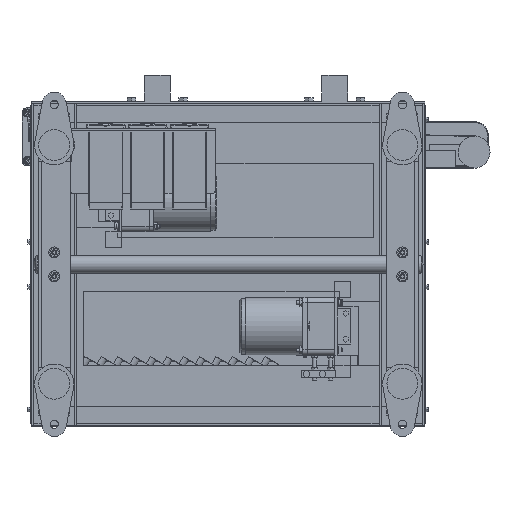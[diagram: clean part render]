
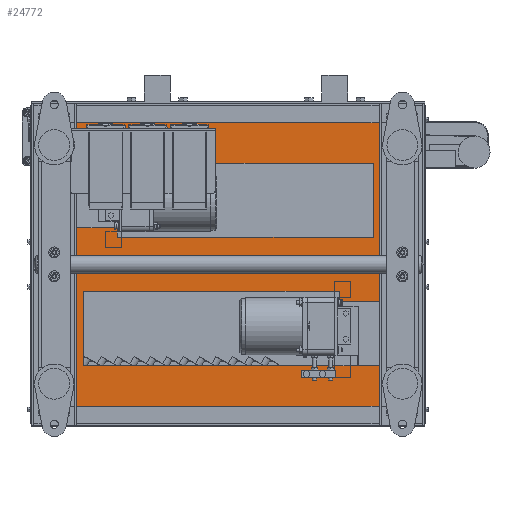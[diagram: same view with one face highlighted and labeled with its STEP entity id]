
A CAD part, front view. The second image highlights one B-rep face of the part: STEP entity #24772.
In plain terms, the highlighted planar face has unit normal (0, -1, 0).
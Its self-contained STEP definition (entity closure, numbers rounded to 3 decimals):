
#23 = EDGE_CURVE ( 'NONE', #34665, #31992, #8664, .T. ) ;
#465 = VERTEX_POINT ( 'NONE', #7724 ) ;
#671 = CARTESIAN_POINT ( 'NONE',  ( 3., -93., -247. ) ) ;
#875 = LINE ( 'NONE', #16957, #46499 ) ;
#922 = EDGE_CURVE ( 'NONE', #47842, #46367, #19566, .T. ) ;
#966 = CARTESIAN_POINT ( 'NONE',  ( 610., -93., -500000. ) ) ;
#1209 = CARTESIAN_POINT ( 'NONE',  ( 477., -93., -42. ) ) ;
#1773 = VERTEX_POINT ( 'NONE', #22852 ) ;
#2421 = CARTESIAN_POINT ( 'NONE',  ( 40., -93., 157. ) ) ;
#3193 = CARTESIAN_POINT ( 'NONE',  ( 610., -93., -247. ) ) ;
#3985 = EDGE_CURVE ( 'NONE', #47346, #16393, #43688, .T. ) ;
#4253 = LINE ( 'NONE', #5260, #57061 ) ;
#4500 = EDGE_CURVE ( 'NONE', #465, #47346, #54246, .T. ) ;
#4679 = CARTESIAN_POINT ( 'NONE',  ( 570., -93., -57. ) ) ;
#5260 = CARTESIAN_POINT ( 'NONE',  ( 530., -93., 42. ) ) ;
#5578 = EDGE_CURVE ( 'NONE', #35541, #32218, #21245, .T. ) ;
#6024 = VECTOR ( 'NONE', #28038, 1000. ) ;
#6991 = VECTOR ( 'NONE', #16217, 1000. ) ;
#7374 = CARTESIAN_POINT ( 'NONE',  ( 80., -93., -157. ) ) ;
#7724 = CARTESIAN_POINT ( 'NONE',  ( 40., -93., 57. ) ) ;
#8326 = CARTESIAN_POINT ( 'NONE',  ( 530., -93., 157. ) ) ;
#8544 = LINE ( 'NONE', #31102, #31307 ) ;
#8664 = LINE ( 'NONE', #4679, #19399 ) ;
#9218 = VERTEX_POINT ( 'NONE', #40480 ) ;
#9263 = ORIENTED_EDGE ( 'NONE', *, *, #45675, .T. ) ;
#9299 = DIRECTION ( 'NONE',  ( -1., 0., 0. ) ) ;
#9811 = DIRECTION ( 'NONE',  ( -1., 0., 0. ) ) ;
#12069 = DIRECTION ( 'NONE',  ( -1., 0., 0. ) ) ;
#12742 = VECTOR ( 'NONE', #9299, 1000. ) ;
#13437 = ORIENTED_EDGE ( 'NONE', *, *, #23, .T. ) ;
#14275 = EDGE_CURVE ( 'NONE', #9218, #1773, #51369, .T. ) ;
#14515 = CARTESIAN_POINT ( 'NONE',  ( 477., -93., -57. ) ) ;
#15064 = VECTOR ( 'NONE', #45428, 1000. ) ;
#15795 = CARTESIAN_POINT ( 'NONE',  ( 530., -93., 157. ) ) ;
#16217 = DIRECTION ( 'NONE',  ( 0., 0., 1. ) ) ;
#16393 = VERTEX_POINT ( 'NONE', #41852 ) ;
#16656 = DIRECTION ( 'NONE',  ( 0., 0., -1. ) ) ;
#16877 = ORIENTED_EDGE ( 'NONE', *, *, #43638, .F. ) ;
#16887 = VECTOR ( 'NONE', #16656, 1000. ) ;
#16957 = CARTESIAN_POINT ( 'NONE',  ( 80., -93., -42. ) ) ;
#17096 = CARTESIAN_POINT ( 'NONE',  ( 133., -93., 57. ) ) ;
#17162 = DIRECTION ( 'NONE',  ( 0., 0., -1. ) ) ;
#17191 = ORIENTED_EDGE ( 'NONE', *, *, #39667, .T. ) ;
#18320 = CARTESIAN_POINT ( 'NONE',  ( 570., -93., -57. ) ) ;
#18420 = FACE_BOUND ( 'NONE', #45718, .T. ) ;
#18583 = PLANE ( 'NONE',  #31071 ) ;
#19093 = FACE_OUTER_BOUND ( 'NONE', #47543, .T. ) ;
#19399 = VECTOR ( 'NONE', #37142, 1000. ) ;
#19469 = ORIENTED_EDGE ( 'NONE', *, *, #3985, .T. ) ;
#19504 = VECTOR ( 'NONE', #20199, 1000. ) ;
#19566 = LINE ( 'NONE', #26401, #53748 ) ;
#20083 = CARTESIAN_POINT ( 'NONE',  ( 133., -93., 42. ) ) ;
#20199 = DIRECTION ( 'NONE',  ( 1., 0., 0. ) ) ;
#20783 = CARTESIAN_POINT ( 'NONE',  ( 570., -93., -57. ) ) ;
#21245 = LINE ( 'NONE', #47804, #6991 ) ;
#21992 = EDGE_CURVE ( 'NONE', #9218, #39885, #28019, .T. ) ;
#22435 = LINE ( 'NONE', #23502, #6024 ) ;
#22852 = CARTESIAN_POINT ( 'NONE',  ( 607., -93., 247. ) ) ;
#23502 = CARTESIAN_POINT ( 'NONE',  ( 3., -93., -500000. ) ) ;
#24772 = ADVANCED_FACE ( 'NONE', ( #18420, #57588, #19093 ), #18583, .F. ) ;
#25437 = ORIENTED_EDGE ( 'NONE', *, *, #38778, .T. ) ;
#25524 = LINE ( 'NONE', #58679, #12742 ) ;
#26401 = CARTESIAN_POINT ( 'NONE',  ( 133., -93., 57. ) ) ;
#26794 = LINE ( 'NONE', #20783, #41770 ) ;
#27525 = CARTESIAN_POINT ( 'NONE',  ( 607., -93., -500000. ) ) ;
#28019 = LINE ( 'NONE', #3193, #56562 ) ;
#28038 = DIRECTION ( 'NONE',  ( 0., 0., 1. ) ) ;
#28135 = DIRECTION ( 'NONE',  ( 1., 0., 0. ) ) ;
#30502 = DIRECTION ( 'NONE',  ( 0., 0., 1. ) ) ;
#31071 = AXIS2_PLACEMENT_3D ( 'NONE', #966, #41648, #9811 ) ;
#31102 = CARTESIAN_POINT ( 'NONE',  ( 610., -93., 247. ) ) ;
#31307 = VECTOR ( 'NONE', #28135, 1000. ) ;
#31725 = DIRECTION ( 'NONE',  ( 0., 0., 1. ) ) ;
#31744 = LINE ( 'NONE', #35083, #16887 ) ;
#31992 = VERTEX_POINT ( 'NONE', #58343 ) ;
#32218 = VERTEX_POINT ( 'NONE', #46160 ) ;
#32513 = DIRECTION ( 'NONE',  ( -1., 0., 0. ) ) ;
#32849 = VECTOR ( 'NONE', #30502, 1000. ) ;
#33025 = LINE ( 'NONE', #8326, #40890 ) ;
#33137 = ORIENTED_EDGE ( 'NONE', *, *, #54389, .T. ) ;
#33228 = EDGE_CURVE ( 'NONE', #48736, #1773, #8544, .T. ) ;
#34665 = VERTEX_POINT ( 'NONE', #18320 ) ;
#35071 = ORIENTED_EDGE ( 'NONE', *, *, #33228, .F. ) ;
#35083 = CARTESIAN_POINT ( 'NONE',  ( 477., -93., -57. ) ) ;
#35541 = VERTEX_POINT ( 'NONE', #53051 ) ;
#36498 = CARTESIAN_POINT ( 'NONE',  ( 530., -93., 42. ) ) ;
#37142 = DIRECTION ( 'NONE',  ( 0., 0., -1. ) ) ;
#38494 = EDGE_CURVE ( 'NONE', #46367, #465, #25524, .T. ) ;
#38778 = EDGE_CURVE ( 'NONE', #50977, #41574, #31744, .T. ) ;
#39223 = ORIENTED_EDGE ( 'NONE', *, *, #21992, .F. ) ;
#39667 = EDGE_CURVE ( 'NONE', #16393, #50897, #33025, .T. ) ;
#39885 = VERTEX_POINT ( 'NONE', #671 ) ;
#40480 = CARTESIAN_POINT ( 'NONE',  ( 607., -93., -247. ) ) ;
#40890 = VECTOR ( 'NONE', #17162, 1000. ) ;
#41229 = LINE ( 'NONE', #7374, #54762 ) ;
#41574 = VERTEX_POINT ( 'NONE', #14515 ) ;
#41648 = DIRECTION ( 'NONE',  ( 0., 1., 0. ) ) ;
#41770 = VECTOR ( 'NONE', #43624, 1000. ) ;
#41852 = CARTESIAN_POINT ( 'NONE',  ( 530., -93., 157. ) ) ;
#43277 = EDGE_CURVE ( 'NONE', #41574, #34665, #26794, .T. ) ;
#43624 = DIRECTION ( 'NONE',  ( 1., 0., 0. ) ) ;
#43638 = EDGE_CURVE ( 'NONE', #39885, #48736, #22435, .T. ) ;
#43688 = LINE ( 'NONE', #15795, #19504 ) ;
#44307 = ORIENTED_EDGE ( 'NONE', *, *, #14275, .T. ) ;
#44624 = ORIENTED_EDGE ( 'NONE', *, *, #5578, .T. ) ;
#45428 = DIRECTION ( 'NONE',  ( 0., 0., 1. ) ) ;
#45675 = EDGE_CURVE ( 'NONE', #31992, #35541, #41229, .T. ) ;
#45718 = EDGE_LOOP ( 'NONE', ( #25437, #52814, #13437, #9263, #44624, #51557 ) ) ;
#46160 = CARTESIAN_POINT ( 'NONE',  ( 80., -93., -42. ) ) ;
#46367 = VERTEX_POINT ( 'NONE', #17096 ) ;
#46499 = VECTOR ( 'NONE', #48338, 1000. ) ;
#47346 = VERTEX_POINT ( 'NONE', #52560 ) ;
#47543 = EDGE_LOOP ( 'NONE', ( #44307, #35071, #16877, #39223 ) ) ;
#47804 = CARTESIAN_POINT ( 'NONE',  ( 80., -93., -42. ) ) ;
#47842 = VERTEX_POINT ( 'NONE', #20083 ) ;
#48338 = DIRECTION ( 'NONE',  ( 1., 0., 0. ) ) ;
#48470 = ORIENTED_EDGE ( 'NONE', *, *, #4500, .T. ) ;
#48736 = VERTEX_POINT ( 'NONE', #58761 ) ;
#48758 = EDGE_LOOP ( 'NONE', ( #53983, #56648, #48470, #19469, #17191, #33137 ) ) ;
#50897 = VERTEX_POINT ( 'NONE', #36498 ) ;
#50977 = VERTEX_POINT ( 'NONE', #1209 ) ;
#51369 = LINE ( 'NONE', #27525, #15064 ) ;
#51557 = ORIENTED_EDGE ( 'NONE', *, *, #51944, .T. ) ;
#51944 = EDGE_CURVE ( 'NONE', #32218, #50977, #875, .T. ) ;
#52560 = CARTESIAN_POINT ( 'NONE',  ( 40., -93., 157. ) ) ;
#52814 = ORIENTED_EDGE ( 'NONE', *, *, #43277, .T. ) ;
#53051 = CARTESIAN_POINT ( 'NONE',  ( 80., -93., -157. ) ) ;
#53748 = VECTOR ( 'NONE', #31725, 1000. ) ;
#53983 = ORIENTED_EDGE ( 'NONE', *, *, #922, .T. ) ;
#54246 = LINE ( 'NONE', #2421, #32849 ) ;
#54389 = EDGE_CURVE ( 'NONE', #50897, #47842, #4253, .T. ) ;
#54762 = VECTOR ( 'NONE', #57549, 1000. ) ;
#56562 = VECTOR ( 'NONE', #12069, 1000. ) ;
#56648 = ORIENTED_EDGE ( 'NONE', *, *, #38494, .T. ) ;
#57061 = VECTOR ( 'NONE', #32513, 1000. ) ;
#57549 = DIRECTION ( 'NONE',  ( -1., 0., 0. ) ) ;
#57588 = FACE_BOUND ( 'NONE', #48758, .T. ) ;
#58343 = CARTESIAN_POINT ( 'NONE',  ( 570., -93., -157. ) ) ;
#58679 = CARTESIAN_POINT ( 'NONE',  ( 40., -93., 57. ) ) ;
#58761 = CARTESIAN_POINT ( 'NONE',  ( 3., -93., 247. ) ) ;
